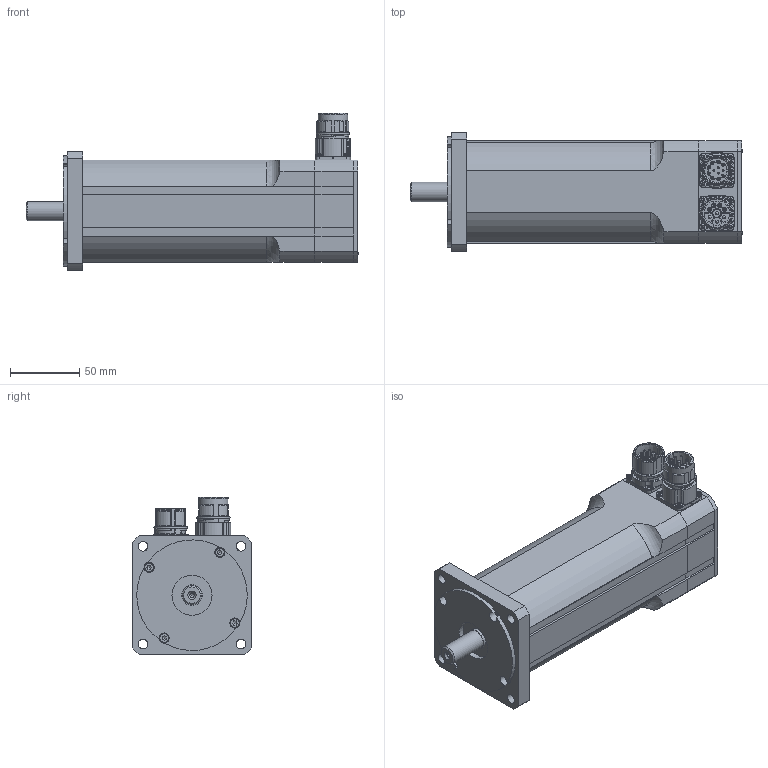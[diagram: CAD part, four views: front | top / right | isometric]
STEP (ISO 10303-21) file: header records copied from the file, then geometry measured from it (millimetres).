
FILE_DESCRIPTION(/* description */ (''),/* implementation_level */ '2;1');
FILE_NAME(/* name */ 'V:\3\N3111 00 B\3D Z\N3111 00 B Z_0480_8P_12P.stp',/* time_stamp */ '2017-06-28T12:03:52+02:00',/* author */ ('simik'),/* organization */ (''),/* preprocessor_version */ 'ST-DEVELOPER v16.13',/* originating_system */ 'Autodesk Inventor 2018',/* authorisation */ '');
FILE_SCHEMA (('AUTOMOTIVE_DESIGN { 1 0 10303 214 3 1 1 }'));
Products named in the file (5): N3111 00 B Z; N3111 00 B Z_front; N3111 00 B Z_0480; 127331; 127344
Assembly tree (4 placements, depth 2):
  N3111 00 B Z
    N3111 00 B Z_front
    N3111 00 B Z_0480
    127331
    127344
Bounding box: 240.2 x 86 x 113.75 mm (x, y, z)
Volume: 410015.2 mm3; surface area: 150526.4 mm2
Topology: 4 solids, 4 shells, 1692 faces, 4121 edges, 2527 vertices
Faces by surface type: cylinder 747, plane 482, bspline 164, torus 141, cone 119, sphere 39
Full cylindrical faces by diameter (mm): 1 x16, 1.18 x12, 1.3 x4, 2 x4, 2.15 x4, 2.208 x8, 2.4 x8, 2.459 x4, 2.5 x8, 2.7 x8, 2.8 x4, 3 x4, 3.242 x5, 3.3 x3, 4 x4, 4.3 x4, 5 x8, 5.6 x4, 5.8 x1, 6.5 x7, 6.8 x1, 7 x8, 7.3 x4, 14 x1, 15 x1, 17.1 x1, 17.4 x1, 17.7 x1, 19.8 x1, 20 x4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
Entity records: 57879 total; most frequent: CARTESIAN_POINT 18355, DIRECTION 8129, ORIENTED_EDGE 7546, EDGE_CURVE 3699, AXIS2_PLACEMENT_3D 3455, VERTEX_POINT 2393, EDGE_LOOP 2102, CIRCLE 1775
